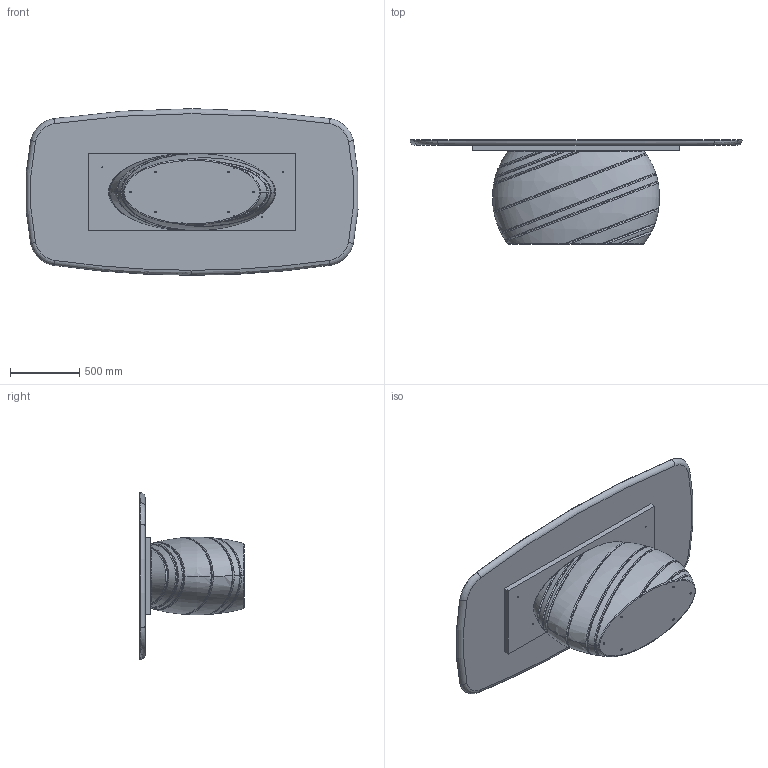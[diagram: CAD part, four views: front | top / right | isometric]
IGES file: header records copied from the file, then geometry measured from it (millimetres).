
Start section: SolidWorks IGES file using analytic representation for surfaces
Global section: file name: Y:\eforma\TECNICO\SOLIDWORKS\E-FORMA\1-TAVOLI\GIOVE\08 modelli 3D web\legno 240x120 sag.IGS; native system: SolidWorks 2022; preprocessor: SolidWorks 2022; author: eforma.tech; date: 250526.160416; units: millimetre
Bounding box: 2391.62 x 750 x 1200 mm (x, y, z)
Volume: 449164880.1 mm3; surface area: 10065769.4 mm2
Topology: 3 solids, 3 shells, 170 faces, 414 edges, 265 vertices
Faces by surface type: revolution 86, bspline 53, plane 31
